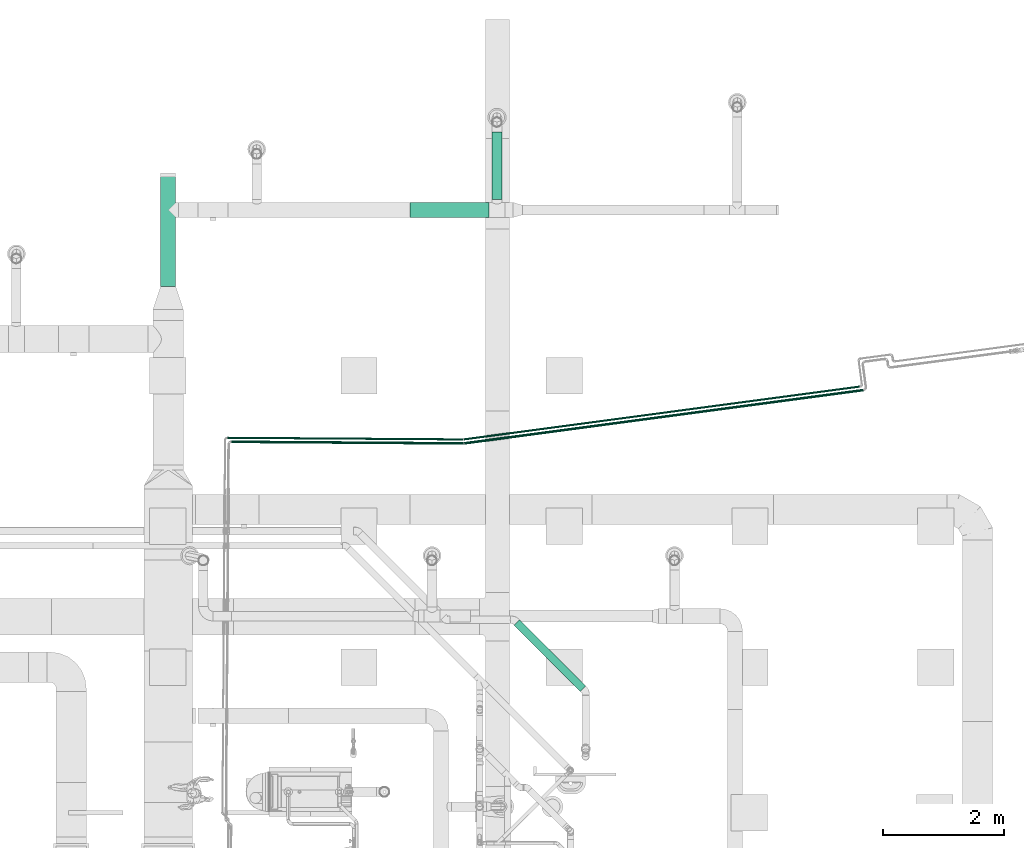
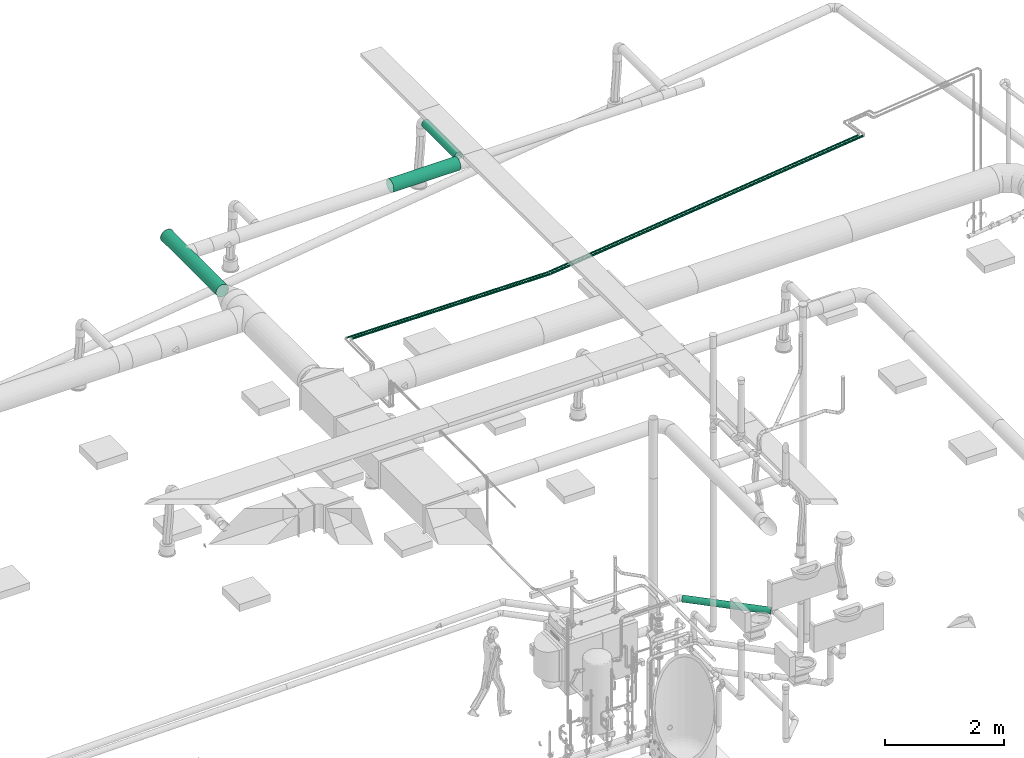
# One storey, part 226 of 374: 8 flow segments.
"""IFC2X3 building model written with IfcOpenShell, lengths in metres."""

from ifc_helpers import new_model, si_unit, direction, origin, place, context, subcontext, project, spatial, open_shell, surface_model, source, transform, mapped, element, save


model = new_model("IFC2X3")

# Units and contexts
model_context = context("Model", 3, precision=1e-05, world=origin(), true_north=direction((-0.4480736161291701, 0.8939966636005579)))
body_context = subcontext(model_context, "Body", "Model", "MODEL_VIEW")
ifc_project = project(units=[si_unit("LENGTHUNIT", "METRE"), si_unit("AREAUNIT", "SQUARE_METRE"), si_unit("VOLUMEUNIT", "CUBIC_METRE"), si_unit("PLANEANGLEUNIT", "RADIAN"), si_unit("THERMODYNAMICTEMPERATUREUNIT", "KELVIN"), si_unit("MASSUNIT", "GRAM", prefix="KILO"), si_unit("TIMEUNIT", "SECOND")], contexts=[model_context])

# Site, building, storey
site_placement = place(None, origin())
site = spatial("IfcSite", under=ifc_project, at=site_placement, Name="Site 1", CompositionType="ELEMENT")
building_placement = place(site_placement, origin())
building = spatial("IfcBuilding", under=site, at=building_placement, Name="Undefined", CompositionType="ELEMENT")
storey_placement = place(building_placement, origin())
storey = spatial("IfcBuildingStorey", under=building, at=storey_placement, Name="Rez de chauss\x8ee", CompositionType="ELEMENT", Elevation=0.0)

# Flow segments
shared_shape_1 = source(origin(), body_context, "Body", "SurfaceModel", [
    surface_model("IfcFaceBasedSurfaceModel", [(1.5458845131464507, 7.105427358e-15, 0.0), (1.5458845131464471, 0.016315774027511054, -1.776356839e-15), (0.0, 0.0163157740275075, 0.0), (0.0, 0.0, 0.0), (1.5458845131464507, 0.032075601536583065, -0.004222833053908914), (0.0, 0.03207560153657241, -0.004222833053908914), (1.5458845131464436, 0.04620547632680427, -0.012380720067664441), (0.0, 0.04620547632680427, -0.012380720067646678), (1.5458845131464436, 0.057742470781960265, -0.02391771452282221), (0.0, 0.05774247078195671, -0.023917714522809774), (1.5458845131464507, 0.06590035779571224, -0.038047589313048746), (0.0, 0.06590035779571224, -0.03804758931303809), (1.5458845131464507, 0.07012319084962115, -0.05380741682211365), (0.0, 0.0701231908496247, -0.05380741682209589), (1.5458845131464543, 0.07012319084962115, -0.07012319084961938), (0.0, 0.0701231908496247, -0.07012319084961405), (1.5458845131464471, 0.06590035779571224, -0.08588301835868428), (0.0, 0.06590035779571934, -0.08588301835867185), (1.5458845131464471, 0.057742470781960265, -0.10001289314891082), (0.0, 0.05774247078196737, -0.10001289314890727), (1.5458845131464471, 0.04620547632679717, -0.11154988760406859), (0.0, 0.04620547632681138, -0.11154988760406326), (1.5458845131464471, 0.03207560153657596, -0.11970777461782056), (0.0, 0.03207560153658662, -0.11970777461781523), (1.5458845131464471, 0.016315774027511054, -0.12393060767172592), (0.0, 0.016315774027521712, -0.12393060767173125), (1.5458845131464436, 0.0, -0.1239306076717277), (0.0, 1.4210854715e-14, -0.12393060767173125), (1.5458845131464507, -0.0157598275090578, -0.11970777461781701), (0.0, -0.015759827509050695, -0.11970777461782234), (1.5458845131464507, -0.029889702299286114, -0.11154988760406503), (0.0, -0.02988970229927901, -0.11154988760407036), (1.5458845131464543, -0.041426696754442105, -0.10001289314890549), (0.0, -0.04142669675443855, -0.10001289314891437), (1.5458845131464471, -0.049584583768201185, -0.08588301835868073), (0.0, -0.04958458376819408, -0.08588301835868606), (1.5458845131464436, -0.053807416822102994, -0.07012319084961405), (0.0, -0.053807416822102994, -0.07012319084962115), (1.5458845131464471, -0.053807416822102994, -0.05380741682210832), (0.0, -0.053807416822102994, -0.053807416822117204), (1.5458845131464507, -0.04958458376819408, -0.03804758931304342), (0.0, -0.04958458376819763, -0.038047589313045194), (1.5458845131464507, -0.04142669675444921, -0.02391771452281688), (0.0, -0.04142669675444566, -0.02391771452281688), (1.5458845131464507, -0.029889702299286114, -0.012380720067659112), (0.0, -0.029889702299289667, -0.012380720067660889), (1.5458845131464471, -0.0157598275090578, -0.004222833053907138), (0.0, -0.015759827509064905, -0.004222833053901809)], [open_shell([[[0, 1, 2, 3]], [[1, 4, 5, 2]], [[4, 6, 7, 5]], [[6, 8, 9, 7]], [[8, 10, 11, 9]], [[10, 12, 13, 11]], [[12, 14, 15, 13]], [[14, 16, 17, 15]], [[16, 18, 19, 17]], [[18, 20, 21, 19]], [[20, 22, 23, 21]], [[22, 24, 25, 23]], [[24, 26, 27, 25]], [[26, 28, 29, 27]], [[28, 30, 31, 29]], [[30, 32, 33, 31]], [[32, 34, 35, 33]], [[34, 36, 37, 35]], [[36, 38, 39, 37]], [[38, 40, 41, 39]], [[40, 42, 43, 41]], [[42, 44, 45, 43]], [[44, 46, 47, 45]], [[46, 0, 3, 47]]])]),
])
flow_segment_1_placement = place(storey_placement, origin())
element("IfcFlowSegment", 1, at=flow_segment_1_placement, inside=storey, Name="PE-HD tuyau", ObjectType="PE-HD tuyau", context=body_context, shape_type="MappedRepresentation", body=[
    mapped(shared_shape_1, transform((58.779824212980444, 14.757514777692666, -1.0916265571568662), x_axis=(-0.7069654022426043, 0.7069654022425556, -0.01999600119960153), y_axis=(-0.699211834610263, -0.702902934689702, -0.1305000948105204), z_axis=(-0.1063142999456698, -0.0782776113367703, 0.9912466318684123))),
])
shared_shape_2 = source(origin(), body_context, "Body", "SurfaceModel", [
    surface_model("IfcFaceBasedSurfaceModel", [(0.0, 0.03263154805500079, 0.0), (0.0, 0.0, 0.0), (1.3060053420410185, 0.0, 3.33066907e-16), (1.3060053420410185, 0.0326315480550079, 3.33066907e-16), (0.0, -0.031519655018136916, -0.008445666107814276), (1.3060053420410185, -0.03151965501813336, -0.008445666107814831), (0.0, -0.05977940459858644, -0.024761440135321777), (1.3060053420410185, -0.05977940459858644, -0.024761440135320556), (0.0, -0.08285339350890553, -0.047835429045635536), (1.3060053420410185, -0.08285339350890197, -0.047835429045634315), (0.0, -0.09916916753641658, -0.07609517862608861), (1.3060053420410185, -0.09916916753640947, -0.07609517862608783), (0.0, -0.1076148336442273, -0.10761483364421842), (1.3060053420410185, -0.10761483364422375, -0.10761483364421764), (0.0, -0.1076148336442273, -0.14024638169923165), (1.3060053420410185, -0.1076148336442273, -0.14024638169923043), (0.0, -0.09916916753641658, -0.17176603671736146), (1.3060053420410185, -0.09916916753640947, -0.17176603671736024), (0.0, -0.08285339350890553, -0.2000257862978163), (1.3060053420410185, -0.08285339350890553, -0.20002578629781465), (0.0, -0.059779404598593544, -0.22309977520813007), (1.3060053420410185, -0.05977940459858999, -0.22309977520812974), (0.0, -0.03151965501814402, -0.23941554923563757), (1.3060053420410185, -0.03151965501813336, -0.23941554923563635), (0.0, -1.4210854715e-14, -0.24786121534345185), (1.3060053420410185, -7.105427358e-15, -0.24786121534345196), (0.0, 0.03263154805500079, -0.24786121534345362), (1.3060053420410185, 0.0326315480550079, -0.2478612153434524), (0.0, 0.0641512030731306, -0.23941554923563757), (1.3060053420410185, 0.06415120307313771, -0.23941554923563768), (0.0, 0.09241095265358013, -0.22309977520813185), (1.3060053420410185, 0.09241095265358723, -0.22309977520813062), (0.0, 0.11548494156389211, -0.2000257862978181), (1.3060053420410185, 0.11548494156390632, -0.20002578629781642), (0.0, 0.13180071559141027, -0.171766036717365), (1.3060053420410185, 0.13180071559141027, -0.17176603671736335), (0.0, 0.140246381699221, -0.1402463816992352), (1.3060053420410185, 0.1402463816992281, -0.14024638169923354), (0.0, 0.140246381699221, -0.10761483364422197), (1.3060053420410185, 0.1402463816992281, -0.10761483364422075), (0.0, 0.13180071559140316, -0.07609517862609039), (1.3060053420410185, 0.13180071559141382, -0.0760951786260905), (0.0, 0.11548494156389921, -0.04783542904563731), (1.3060053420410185, 0.11548494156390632, -0.047835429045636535), (0.0, 0.09241095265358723, -0.024761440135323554), (1.3060053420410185, 0.09241095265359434, -0.024761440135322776), (0.0, 0.06415120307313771, -0.008445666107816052), (1.3060053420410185, 0.06415120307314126, -0.00844566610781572)], [open_shell([[[0, 1, 2, 3]], [[1, 4, 5, 2]], [[4, 6, 7, 5]], [[6, 8, 9, 7]], [[8, 10, 11, 9]], [[10, 12, 13, 11]], [[12, 14, 15, 13]], [[14, 16, 17, 15]], [[16, 18, 19, 17]], [[18, 20, 21, 19]], [[20, 22, 23, 21]], [[22, 24, 25, 23]], [[24, 26, 27, 25]], [[26, 28, 29, 27]], [[28, 30, 31, 29]], [[30, 32, 33, 31]], [[32, 34, 35, 33]], [[34, 36, 37, 35]], [[36, 38, 39, 37]], [[38, 40, 41, 39]], [[40, 42, 43, 41]], [[42, 44, 45, 43]], [[44, 46, 47, 45]], [[46, 0, 3, 47]]])]),
])
flow_segment_2_placement = place(storey_placement, origin())
element("IfcFlowSegment", 2, at=flow_segment_2_placement, inside=storey, Name="Tube", ObjectType="Tube", context=body_context, shape_type="MappedRepresentation", body=[
    mapped(shared_shape_2, transform((55.924995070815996, 22.625523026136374, 3.920740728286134), x_axis=(1.0, 0.0, 0.0), y_axis=(0.0, 0.9914448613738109, 0.1305261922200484), z_axis=(0.0, -0.1305261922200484, 0.9914448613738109))),
])
shared_shape_3 = source(origin(), body_context, "Body", "SurfaceModel", [
    surface_model("IfcFaceBasedSurfaceModel", [(0.0, 0.020884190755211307, 0.0), (0.0, 0.0, 0.0), (1.1129216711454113, 0.0, 0.0), (1.1129216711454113, 0.0208841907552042, 0.0), (0.0, -0.020172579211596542, -0.005405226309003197), (1.1129216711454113, -0.020172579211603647, -0.005405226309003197), (0.0, -0.03825881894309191, -0.015847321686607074), (1.1129216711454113, -0.038258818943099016, -0.015847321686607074), (0.0, -0.05302617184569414, -0.0306146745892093), (1.1129216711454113, -0.05302617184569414, -0.030614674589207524), (0.0, -0.06346826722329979, -0.04870091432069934), (1.1129216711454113, -0.0634682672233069, -0.048700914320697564), (0.0, -0.06887349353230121, -0.06887349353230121), (1.1129216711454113, -0.06887349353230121, -0.06887349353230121), (0.0, -0.06887349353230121, -0.08975768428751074), (1.1129216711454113, -0.06887349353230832, -0.08975768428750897), (0.0, -0.06346826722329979, -0.10993026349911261), (1.1129216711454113, -0.06346826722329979, -0.10993026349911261), (0.0, -0.05302617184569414, -0.12801650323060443), (1.1129216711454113, -0.05302617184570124, -0.12801650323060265), (0.0, -0.038258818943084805, -0.14278385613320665), (1.1129216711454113, -0.03825881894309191, -0.1427838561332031), (0.0, -0.020172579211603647, -0.15322595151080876), (1.1129216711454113, -0.020172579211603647, -0.15322595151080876), (0.0, 7.105427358e-15, -0.15863117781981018), (1.1129216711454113, -7.105427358e-15, -0.15863117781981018), (0.0, 0.020884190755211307, -0.15863117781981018), (1.1129216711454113, 0.0208841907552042, -0.15863117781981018), (0.0, 0.04105676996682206, -0.15322595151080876), (1.1129216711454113, 0.04105676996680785, -0.15322595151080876), (0.0, 0.05914300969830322, -0.1427838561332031), (1.1129216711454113, 0.05914300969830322, -0.14278385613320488), (0.0, 0.07391036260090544, -0.12801650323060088), (1.1129216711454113, 0.07391036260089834, -0.12801650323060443), (0.0, 0.0843524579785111, -0.10993026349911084), (1.1129216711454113, 0.08435245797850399, -0.10993026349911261), (0.0, 0.08975768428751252, -0.08975768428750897), (1.1129216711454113, 0.08975768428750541, -0.08975768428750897), (0.0, 0.08975768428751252, -0.06887349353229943), (1.1129216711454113, 0.08975768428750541, -0.06887349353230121), (0.0, 0.0843524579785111, -0.048700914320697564), (1.1129216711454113, 0.08435245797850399, -0.04870091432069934), (0.0, 0.07391036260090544, -0.030614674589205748), (1.1129216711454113, 0.07391036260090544, -0.0306146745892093), (0.0, 0.05914300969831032, -0.015847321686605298), (1.1129216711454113, 0.05914300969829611, -0.015847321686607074), (0.0, 0.04105676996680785, -0.005405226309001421), (1.1129216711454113, 0.04105676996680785, -0.005405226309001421)], [open_shell([[[0, 1, 2, 3]], [[1, 4, 5, 2]], [[4, 6, 7, 5]], [[6, 8, 9, 7]], [[8, 10, 11, 9]], [[10, 12, 13, 11]], [[12, 14, 15, 13]], [[14, 16, 17, 15]], [[16, 18, 19, 17]], [[18, 20, 21, 19]], [[20, 22, 23, 21]], [[22, 24, 25, 23]], [[24, 26, 27, 25]], [[26, 28, 29, 27]], [[28, 30, 31, 29]], [[30, 32, 33, 31]], [[32, 34, 35, 33]], [[34, 36, 37, 35]], [[36, 38, 39, 37]], [[38, 40, 41, 39]], [[40, 42, 43, 41]], [[42, 44, 45, 43]], [[44, 46, 47, 45]], [[46, 0, 3, 47]]])]),
])
flow_segment_3_placement = place(storey_placement, origin())
element("IfcFlowSegment", 3, at=flow_segment_3_placement, inside=storey, Name="Tube", ObjectType="Tube", context=body_context, shape_type="MappedRepresentation", body=[
    mapped(shared_shape_3, transform((57.38170593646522, 22.832875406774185, 3.877274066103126), x_axis=(0.0, 1.0, 0.0), y_axis=(-0.9914448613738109, 0.0, 0.1305261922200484), z_axis=(0.1305261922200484, 0.0, 0.9914448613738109))),
])
shared_shape_4 = source(origin(), body_context, "Body", "SurfaceModel", [
    surface_model("IfcFaceBasedSurfaceModel", [(0.0, 0.03263154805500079, 0.0), (0.0, 0.0, 0.0), (1.869997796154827, 0.0, 0.0), (1.869997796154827, 0.0326315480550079, 0.0), (0.0, -0.031519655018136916, -0.008445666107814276), (1.869997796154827, -0.031519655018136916, -0.008445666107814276), (0.0, -0.05977940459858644, -0.024761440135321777), (1.869997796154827, -0.05977940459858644, -0.024761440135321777), (0.0, -0.08285339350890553, -0.047835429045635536), (1.869997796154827, -0.08285339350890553, -0.04783542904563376), (0.0, -0.09916916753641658, -0.07609517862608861), (1.869997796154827, -0.09916916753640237, -0.07609517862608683), (0.0, -0.1076148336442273, -0.10761483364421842), (1.869997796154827, -0.1076148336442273, -0.10761483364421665), (0.0, -0.1076148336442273, -0.14024638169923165), (1.869997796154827, -0.1076148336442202, -0.14024638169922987), (0.0, -0.09916916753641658, -0.17176603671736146), (1.869997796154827, -0.09916916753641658, -0.1717660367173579), (0.0, -0.08285339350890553, -0.2000257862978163), (1.869997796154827, -0.08285339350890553, -0.20002578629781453), (0.0, -0.059779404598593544, -0.22309977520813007), (1.869997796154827, -0.05977940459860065, -0.2230997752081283), (0.0, -0.03151965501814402, -0.23941554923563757), (1.869997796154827, -0.031519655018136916, -0.2394155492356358), (0.0, -1.4210854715e-14, -0.24786121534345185), (1.869997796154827, -7.105427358e-15, -0.24786121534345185), (0.0, 0.03263154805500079, -0.24786121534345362), (1.869997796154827, 0.03263154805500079, -0.24786121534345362), (0.0, 0.0641512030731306, -0.23941554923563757), (1.869997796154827, 0.0641512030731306, -0.23941554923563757), (0.0, 0.09241095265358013, -0.22309977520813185), (1.8699977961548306, 0.09241095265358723, -0.22309977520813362), (0.0, 0.11548494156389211, -0.2000257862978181), (1.8699977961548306, 0.11548494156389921, -0.2000257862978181), (0.0, 0.13180071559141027, -0.171766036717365), (1.869997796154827, 0.13180071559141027, -0.171766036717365), (0.0, 0.140246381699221, -0.1402463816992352), (1.869997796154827, 0.1402463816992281, -0.1402463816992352), (0.0, 0.140246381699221, -0.10761483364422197), (1.869997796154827, 0.1402463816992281, -0.10761483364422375), (0.0, 0.13180071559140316, -0.07609517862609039), (1.8699977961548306, 0.13180071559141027, -0.07609517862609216), (0.0, 0.11548494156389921, -0.04783542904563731), (1.8699977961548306, 0.11548494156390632, -0.04783542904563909), (0.0, 0.09241095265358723, -0.024761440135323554), (1.869997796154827, 0.09241095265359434, -0.024761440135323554), (0.0, 0.06415120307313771, -0.008445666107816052), (1.869997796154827, 0.06415120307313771, -0.008445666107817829)], [open_shell([[[0, 1, 2, 3]], [[1, 4, 5, 2]], [[4, 6, 7, 5]], [[6, 8, 9, 7]], [[8, 10, 11, 9]], [[10, 12, 13, 11]], [[12, 14, 15, 13]], [[14, 16, 17, 15]], [[16, 18, 19, 17]], [[18, 20, 21, 19]], [[20, 22, 23, 21]], [[22, 24, 25, 23]], [[24, 26, 27, 25]], [[26, 28, 29, 27]], [[28, 30, 31, 29]], [[30, 32, 33, 31]], [[32, 34, 35, 33]], [[34, 36, 37, 35]], [[36, 38, 39, 37]], [[38, 40, 41, 39]], [[40, 42, 43, 41]], [[42, 44, 45, 43]], [[44, 46, 47, 45]], [[46, 0, 3, 47]]])]),
])
flow_segment_4_placement = place(storey_placement, origin())
element("IfcFlowSegment", 4, at=flow_segment_4_placement, inside=storey, Name="Tube", ObjectType="Tube", context=body_context, shape_type="MappedRepresentation", body=[
    mapped(shared_shape_4, transform((51.967347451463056, 21.394888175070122, 3.920740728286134), x_axis=(0.0, 1.0, 0.0), y_axis=(-0.9914448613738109, 0.0, 0.1305261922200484), z_axis=(0.1305261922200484, 0.0, 0.9914448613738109))),
])
shared_shape_5 = source(origin(), body_context, "Body", "SurfaceModel", [
    surface_model("IfcFaceBasedSurfaceModel", [(0.0, 0.005534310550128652, 0.0), (0.0, 0.0, 0.0), (6.645633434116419, -1.776356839e-15, 0.0), (6.6456334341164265, 0.005534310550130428, 8.8817842e-16), (0.0, -0.00534573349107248, -0.0014323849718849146), (6.645633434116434, -0.005345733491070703, -0.0014323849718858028), (0.0, -0.010138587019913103, -0.004199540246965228), (6.6456334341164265, -0.010138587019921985, -0.004199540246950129), (0.0, -0.01405193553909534, -0.008112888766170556), (6.645633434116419, -0.01405193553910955, -0.00811288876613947), (0.0, -0.016819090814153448, -0.012905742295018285), (6.6456334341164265, -0.016819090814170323, -0.012905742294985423), (0.0, -0.018251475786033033, -0.018251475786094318), (6.6456334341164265, -0.01825147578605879, -0.01825147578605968), (0.0, -0.0182514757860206, -0.02378578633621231), (6.6456334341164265, -0.018251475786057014, -0.023785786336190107), (0.0, -0.01681909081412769, -0.029131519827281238), (6.645633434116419, -0.016819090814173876, -0.029131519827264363), (0.0, -0.014051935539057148, -0.03392437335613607), (6.6456334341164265, -0.014051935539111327, -0.03392437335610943), (0.0, -0.010138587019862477, -0.037837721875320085), (6.645633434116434, -0.010138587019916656, -0.03783772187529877), (0.0, -0.005345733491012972, -0.040604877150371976), (6.645633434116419, -0.005345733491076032, -0.04060487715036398), (0.0, 6.4837024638e-14, -0.042037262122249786), (6.6456334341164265, 0.0, -0.0420372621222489), (0.0, 0.005534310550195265, -0.04203726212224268), (6.6456334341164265, 0.005534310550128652, -0.042037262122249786), (0.0, 0.010880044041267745, -0.04060487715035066), (6.645633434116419, 0.010880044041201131, -0.04060487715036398), (0.0, 0.01567289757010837, -0.03783772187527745), (6.645633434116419, 0.01567289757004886, -0.03783772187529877), (0.0, 0.019586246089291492, -0.033924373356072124), (6.645633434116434, 0.019586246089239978, -0.033924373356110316), (0.0, 0.0223534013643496, -0.029131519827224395), (6.645633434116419, 0.02235340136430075, -0.029131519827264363), (0.0, 0.02378578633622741, -0.023785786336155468), (6.6456334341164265, 0.023785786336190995, -0.023785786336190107), (0.0, 0.023785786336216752, -0.01825147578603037), (6.645633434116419, 0.023785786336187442, -0.01825147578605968), (0.0, 0.022353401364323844, -0.012905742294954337), (6.645633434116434, 0.022353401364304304, -0.012905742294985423), (0.0, 0.019586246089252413, -0.008112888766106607), (6.645633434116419, 0.019586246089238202, -0.00811288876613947), (0.0, 0.015672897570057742, -0.004199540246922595), (6.645633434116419, 0.015672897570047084, -0.004199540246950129), (0.0, 0.010880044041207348, -0.0014323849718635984), (6.6456334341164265, 0.010880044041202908, -0.0014323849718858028)], [open_shell([[[0, 1, 2, 3]], [[1, 4, 5, 2]], [[4, 6, 7, 5]], [[6, 8, 9, 7]], [[8, 10, 11, 9]], [[10, 12, 13, 11]], [[12, 14, 15, 13]], [[14, 16, 17, 15]], [[16, 18, 19, 17]], [[18, 20, 21, 19]], [[20, 22, 23, 21]], [[22, 24, 25, 23]], [[24, 26, 27, 25]], [[26, 28, 29, 27]], [[28, 30, 31, 29]], [[30, 32, 33, 31]], [[32, 34, 35, 33]], [[34, 36, 37, 35]], [[36, 38, 39, 37]], [[38, 40, 41, 39]], [[40, 42, 43, 41]], [[42, 44, 45, 43]], [[44, 46, 47, 45]], [[46, 0, 3, 47]]])]),
])
flow_segment_5_placement = place(storey_placement, origin())
element("IfcFlowSegment", 5, at=flow_segment_5_placement, inside=storey, Name="Tube acier d'après DIN 2448", ObjectType="Tube acier d'après DIN 2448", context=body_context, shape_type="MappedRepresentation", body=[
    mapped(shared_shape_5, transform((63.405513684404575, 19.680237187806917, 3.984662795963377), x_axis=(-0.9912155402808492, -0.13225639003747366, 0.0), y_axis=(-0.1311249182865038, 0.9827355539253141, -0.13052619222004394), z_axis=(0.017262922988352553, -0.1293795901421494, -0.9914448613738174))),
])
shared_shape_6 = source(origin(), body_context, "Body", "SurfaceModel", [
    surface_model("IfcFaceBasedSurfaceModel", [(0.0, 0.005534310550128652, 0.0), (0.0, 0.0, 0.0), (3.830679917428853, 3.552713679e-15, 8.8817842e-16), (3.830679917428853, 0.005534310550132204, 8.8817842e-16), (0.0, -0.00534573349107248, -0.0014323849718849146), (3.830679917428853, -0.005345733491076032, -0.0014323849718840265), (0.0, -0.010138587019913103, -0.004199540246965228), (3.830679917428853, -0.010138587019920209, -0.004199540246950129), (0.0, -0.01405193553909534, -0.008112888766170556), (3.83067991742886, -0.014051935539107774, -0.008112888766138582), (0.0, -0.016819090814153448, -0.012905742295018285), (3.8306799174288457, -0.016819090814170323, -0.012905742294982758), (0.0, -0.018251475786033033, -0.018251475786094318), (3.8306799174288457, -0.01825147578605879, -0.018251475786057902), (0.0, -0.0182514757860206, -0.02378578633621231), (3.8306799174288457, -0.01825147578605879, -0.02378578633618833), (0.0, -0.01681909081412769, -0.029131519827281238), (3.83067991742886, -0.016819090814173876, -0.029131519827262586), (0.0, -0.014051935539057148, -0.03392437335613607), (3.830679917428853, -0.014051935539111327, -0.03392437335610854), (0.0, -0.010138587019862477, -0.037837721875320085), (3.830679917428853, -0.010138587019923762, -0.03783772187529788), (0.0, -0.005345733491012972, -0.040604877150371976), (3.830679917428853, -0.005345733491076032, -0.040604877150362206), (0.0, 6.4837024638e-14, -0.042037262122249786), (3.830679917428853, 0.0, -0.0420372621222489), (0.0, 0.005534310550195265, -0.04203726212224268), (3.830679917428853, 0.005534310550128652, -0.0420372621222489), (0.0, 0.010880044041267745, -0.04060487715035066), (3.830679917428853, 0.010880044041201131, -0.04060487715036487), (0.0, 0.01567289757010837, -0.03783772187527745), (3.83067991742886, 0.015672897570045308, -0.03783772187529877), (0.0, 0.019586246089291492, -0.033924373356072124), (3.830679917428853, 0.019586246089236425, -0.03392437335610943), (0.0, 0.0223534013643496, -0.029131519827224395), (3.830679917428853, 0.022353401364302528, -0.02913151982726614), (0.0, 0.02378578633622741, -0.023785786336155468), (3.830679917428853, 0.023785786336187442, -0.023785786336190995), (0.0, 0.023785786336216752, -0.01825147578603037), (3.830679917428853, 0.023785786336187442, -0.018251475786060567), (0.0, 0.022353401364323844, -0.012905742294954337), (3.830679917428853, 0.022353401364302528, -0.012905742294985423), (0.0, 0.019586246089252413, -0.008112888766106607), (3.83067991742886, 0.019586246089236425, -0.008112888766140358), (0.0, 0.015672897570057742, -0.004199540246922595), (3.830679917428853, 0.01567289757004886, -0.004199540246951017), (0.0, 0.010880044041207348, -0.0014323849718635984), (3.830679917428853, 0.010880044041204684, -0.0014323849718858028)], [open_shell([[[0, 1, 2, 3]], [[1, 4, 5, 2]], [[4, 6, 7, 5]], [[6, 8, 9, 7]], [[8, 10, 11, 9]], [[10, 12, 13, 11]], [[12, 14, 15, 13]], [[14, 16, 17, 15]], [[16, 18, 19, 17]], [[18, 20, 21, 19]], [[20, 22, 23, 21]], [[22, 24, 25, 23]], [[24, 26, 27, 25]], [[26, 28, 29, 27]], [[28, 30, 31, 29]], [[30, 32, 33, 31]], [[32, 34, 35, 33]], [[34, 36, 37, 35]], [[36, 38, 39, 37]], [[38, 40, 41, 39]], [[40, 42, 43, 41]], [[42, 44, 45, 43]], [[44, 46, 47, 45]], [[46, 0, 3, 47]]])]),
])
flow_segment_6_placement = place(storey_placement, origin())
element("IfcFlowSegment", 6, at=flow_segment_6_placement, inside=storey, Name="Tube acier d'après DIN 2448", ObjectType="Tube acier d'après DIN 2448", context=body_context, shape_type="MappedRepresentation", body=[
    mapped(shared_shape_6, transform((56.810811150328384, 18.800841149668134, 3.984662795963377), x_axis=(-0.9999756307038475, 0.00698126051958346, -2.3185921e-16), y_axis=(0.006921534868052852, 0.9914207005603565, -0.13052619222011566), z_axis=(-0.0009112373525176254, -0.1305230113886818, -0.991444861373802))),
])
shared_shape_7 = source(origin(), body_context, "Body", "SurfaceModel", [
    surface_model("IfcFaceBasedSurfaceModel", [(0.0, 0.004398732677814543, 0.0), (0.0, 0.0, 0.0), (6.591727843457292, 0.0, 8.8817842e-16), (6.591727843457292, 0.0043987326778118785, 8.8817842e-16), (0.0, -0.004248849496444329, -0.00113847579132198), (6.591727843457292, -0.004248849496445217, -0.0011384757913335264), (0.0, -0.008058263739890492, -0.003337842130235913), (6.591727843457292, -0.008058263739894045, -0.003337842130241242), (0.0, -0.01116863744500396, -0.0064482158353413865), (6.591727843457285, -0.011168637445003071, -0.006448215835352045), (0.0, -0.013368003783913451, -0.010257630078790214), (6.591727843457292, -0.013368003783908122, -0.010257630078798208), (0.0, -0.014506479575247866, -0.014506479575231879), (6.591727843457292, -0.014506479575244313, -0.014506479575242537), (0.0, -0.01450647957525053, -0.01890521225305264), (6.591727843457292, -0.01450647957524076, -0.01890521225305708), (0.0, -0.013368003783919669, -0.023154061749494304), (6.591727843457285, -0.013368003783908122, -0.02315406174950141), (0.0, -0.011168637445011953, -0.02696347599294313), (6.591727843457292, -0.011168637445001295, -0.026963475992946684), (0.0, -0.008058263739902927, -0.03007384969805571), (6.591727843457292, -0.00805826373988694, -0.0300738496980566), (0.0, -0.004248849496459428, -0.03227321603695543), (6.591727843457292, -0.004248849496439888, -0.032273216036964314), (0.0, -1.5099033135e-14, -0.03341169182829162), (6.591727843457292, 0.0, -0.03341169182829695), (0.0, 0.00439873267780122, -0.03341169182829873), (6.591727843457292, 0.004398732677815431, -0.03341169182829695), (0.0, 0.008647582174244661, -0.03227321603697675), (6.591727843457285, 0.00864758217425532, -0.03227321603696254), (0.0, 0.012456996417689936, -0.030073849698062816), (6.591727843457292, 0.01245699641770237, -0.030073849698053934), (0.0, 0.01556737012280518, -0.026963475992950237), (6.591727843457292, 0.015567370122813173, -0.02696347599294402), (0.0, 0.017766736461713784, -0.023154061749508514), (6.591727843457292, 0.017766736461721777, -0.023154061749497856), (0.0, 0.018905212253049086, -0.01890521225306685), (6.591727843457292, 0.01890521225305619, -0.018905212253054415), (0.0, 0.018905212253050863, -0.01450647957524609), (6.591727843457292, 0.018905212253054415, -0.014506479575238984), (0.0, 0.01776673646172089, -0.01025763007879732), (6.591727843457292, 0.01776673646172, -0.010257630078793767), (0.0, 0.015567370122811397, -0.006448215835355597), (6.591727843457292, 0.01556737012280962, -0.00644821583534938), (0.0, 0.012456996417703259, -0.0033378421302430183), (6.591727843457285, 0.012456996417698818, -0.0033378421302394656), (0.0, 0.00864758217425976, -0.0011384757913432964), (6.591727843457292, 0.00864758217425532, -0.00113847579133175)], [open_shell([[[0, 1, 2, 3]], [[1, 4, 5, 2]], [[4, 6, 7, 5]], [[6, 8, 9, 7]], [[8, 10, 11, 9]], [[10, 12, 13, 11]], [[12, 14, 15, 13]], [[14, 16, 17, 15]], [[16, 18, 19, 17]], [[18, 20, 21, 19]], [[20, 22, 23, 21]], [[22, 24, 25, 23]], [[24, 26, 27, 25]], [[26, 28, 29, 27]], [[28, 30, 31, 29]], [[30, 32, 33, 31]], [[32, 34, 35, 33]], [[34, 36, 37, 35]], [[36, 38, 39, 37]], [[38, 40, 41, 39]], [[40, 42, 43, 41]], [[42, 44, 45, 43]], [[44, 46, 47, 45]], [[46, 0, 3, 47]]])]),
])
flow_segment_7_placement = place(storey_placement, origin())
element("IfcFlowSegment", 7, at=flow_segment_7_placement, inside=storey, Name="Tube acier d'après DIN 2448", ObjectType="Tube acier d'après DIN 2448", context=body_context, shape_type="MappedRepresentation", body=[
    mapped(shared_shape_7, transform((63.347942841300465, 19.739705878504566, 3.988864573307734), x_axis=(-0.9912155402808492, -0.13225639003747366, 0.0), y_axis=(-0.1311249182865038, 0.9827355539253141, -0.13052619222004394), z_axis=(0.017262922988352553, -0.1293795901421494, -0.9914448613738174))),
])
shared_shape_8 = source(origin(), body_context, "Body", "SurfaceModel", [
    surface_model("IfcFaceBasedSurfaceModel", [(3.8968247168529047, -3.552713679e-15, -8.8817842e-16), (3.8968247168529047, 0.004398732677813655, -8.8817842e-16), (0.0, 0.004398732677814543, 0.0), (0.0, 0.0, 0.0), (3.8968247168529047, 0.00864758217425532, -0.0011384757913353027), (0.0, 0.00864758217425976, -0.0011384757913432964), (3.8968247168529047, 0.012456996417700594, -0.0033378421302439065), (0.0, 0.012456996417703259, -0.0033378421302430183), (3.8968247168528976, 0.01556737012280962, -0.006448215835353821), (0.0, 0.015567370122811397, -0.006448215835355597), (3.8968247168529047, 0.01776673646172, -0.010257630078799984), (0.0, 0.01776673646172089, -0.01025763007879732), (3.8968247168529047, 0.01890521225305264, -0.014506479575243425), (0.0, 0.018905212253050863, -0.01450647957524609), (3.8968247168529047, 0.01890521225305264, -0.018905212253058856), (0.0, 0.018905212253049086, -0.01890521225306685), (3.8968247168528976, 0.017766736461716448, -0.023154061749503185), (0.0, 0.017766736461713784, -0.023154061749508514), (3.8968247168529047, 0.01556737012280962, -0.026963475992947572), (0.0, 0.01556737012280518, -0.026963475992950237), (3.8968247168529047, 0.012456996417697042, -0.030073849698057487), (0.0, 0.012456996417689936, -0.030073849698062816), (3.8968247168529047, 0.00864758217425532, -0.0322732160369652), (0.0, 0.008647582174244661, -0.03227321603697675), (3.8968247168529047, 0.004398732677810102, -0.03341169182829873), (0.0, 0.00439873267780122, -0.03341169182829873), (3.8968247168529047, -3.552713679e-15, -0.03341169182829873), (0.0, -1.5099033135e-14, -0.03341169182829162), (3.8968247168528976, -0.00424884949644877, -0.032273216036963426), (0.0, -0.004248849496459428, -0.03227321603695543), (3.8968247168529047, -0.008058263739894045, -0.0300738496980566), (0.0, -0.008058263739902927, -0.03007384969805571), (3.8968247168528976, -0.011168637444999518, -0.026963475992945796), (0.0, -0.011168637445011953, -0.02696347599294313), (3.8968247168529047, -0.013368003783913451, -0.02315406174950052), (0.0, -0.013368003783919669, -0.023154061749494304), (3.8968247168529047, -0.014506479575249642, -0.01890521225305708), (0.0, -0.01450647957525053, -0.01890521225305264), (3.8968247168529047, -0.01450647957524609, -0.014506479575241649), (0.0, -0.014506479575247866, -0.014506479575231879), (3.8968247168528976, -0.013368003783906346, -0.010257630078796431), (0.0, -0.013368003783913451, -0.010257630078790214), (3.8968247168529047, -0.011168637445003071, -0.006448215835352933), (0.0, -0.01116863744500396, -0.0064482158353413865), (3.8968247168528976, -0.008058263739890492, -0.003337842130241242), (0.0, -0.008058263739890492, -0.003337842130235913), (3.8968247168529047, -0.004248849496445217, -0.0011384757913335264), (0.0, -0.004248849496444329, -0.00113847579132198)], [open_shell([[[0, 1, 2, 3]], [[1, 4, 5, 2]], [[4, 6, 7, 5]], [[6, 8, 9, 7]], [[8, 10, 11, 9]], [[10, 12, 13, 11]], [[12, 14, 15, 13]], [[14, 16, 17, 15]], [[16, 18, 19, 17]], [[18, 20, 21, 19]], [[20, 22, 23, 21]], [[22, 24, 25, 23]], [[24, 26, 27, 25]], [[26, 28, 29, 27]], [[28, 30, 31, 29]], [[30, 32, 33, 31]], [[32, 34, 35, 33]], [[34, 36, 37, 35]], [[36, 38, 39, 37]], [[38, 40, 41, 39]], [[40, 42, 43, 41]], [[42, 44, 45, 43]], [[44, 46, 47, 45]], [[46, 0, 3, 47]]])]),
])
flow_segment_8_placement = place(storey_placement, origin())
element("IfcFlowSegment", 8, at=flow_segment_8_placement, inside=storey, Name="Tube acier d'après DIN 2448", ObjectType="Tube acier d'après DIN 2448", context=body_context, shape_type="MappedRepresentation", body=[
    mapped(shared_shape_8, transform((52.911522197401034, 18.8991024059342, 3.988290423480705), x_axis=(0.9999756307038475, -0.006981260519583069, 1.13961813e-16), y_axis=(-0.006921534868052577, -0.9914207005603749, 0.1305261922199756), z_axis=(-0.0009112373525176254, -0.1305230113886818, -0.991444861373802))),
])

save(model, "model.ifc")
